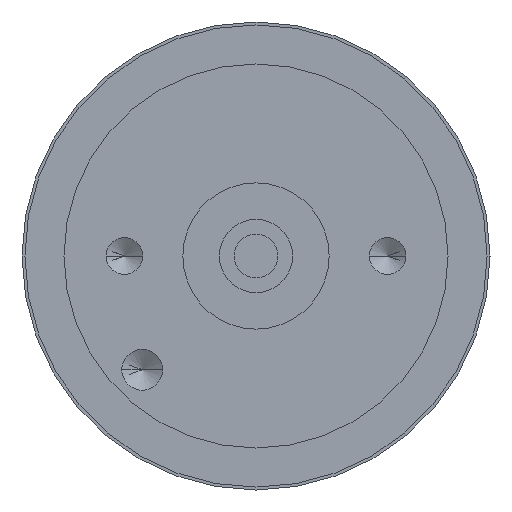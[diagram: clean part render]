
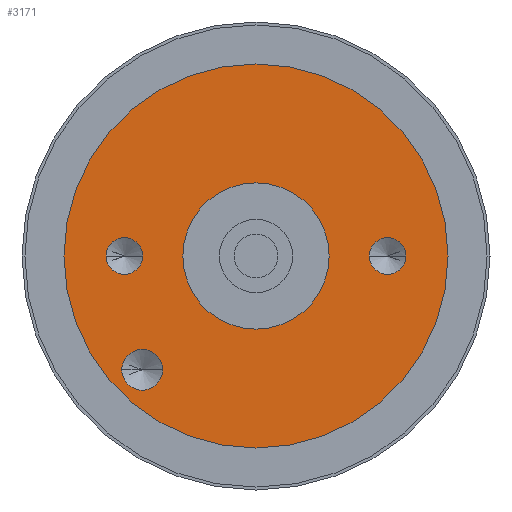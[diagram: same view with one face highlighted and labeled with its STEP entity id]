
A CAD part, left-side view. The second image highlights one B-rep face of the part: STEP entity #3171.
In plain terms, the highlighted planar face has unit normal (-1, 0, 0).
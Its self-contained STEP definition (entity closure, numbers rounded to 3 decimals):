
#71=CARTESIAN_POINT('',(0.,0.,0.));
#72=DIRECTION('',(-1.,0.,0.));
#73=DIRECTION('',(0.,1.,0.));
#74=AXIS2_PLACEMENT_3D('',#71,#72,#73);
#80=CARTESIAN_POINT('',(0.,0.,0.));
#81=DIRECTION('',(1.,0.,0.));
#82=DIRECTION('',(0.,1.,0.));
#83=AXIS2_PLACEMENT_3D('',#80,#81,#82);
#88=CARTESIAN_POINT('',(0.,4.5,0.));
#89=DIRECTION('',(-1.,0.,0.));
#90=DIRECTION('',(0.,1.,0.));
#91=AXIS2_PLACEMENT_3D('',#88,#89,#90);
#96=CARTESIAN_POINT('',(0.,4.5,0.));
#97=DIRECTION('',(-1.,0.,0.));
#98=DIRECTION('',(0.,-1.,0.));
#99=AXIS2_PLACEMENT_3D('',#96,#97,#98);
#104=CARTESIAN_POINT('',(0.,-4.5,0.));
#105=DIRECTION('',(-1.,0.,0.));
#106=DIRECTION('',(0.,-1.,0.));
#107=AXIS2_PLACEMENT_3D('',#104,#105,#106);
#112=CARTESIAN_POINT('',(0.,-4.5,0.));
#113=DIRECTION('',(-1.,0.,0.));
#114=DIRECTION('',(0.,1.,0.));
#115=AXIS2_PLACEMENT_3D('',#112,#113,#114);
#120=CARTESIAN_POINT('',(0.,3.889,-3.889));
#121=DIRECTION('',(-1.,0.,0.));
#122=DIRECTION('',(0.,1.,0.));
#123=AXIS2_PLACEMENT_3D('',#120,#121,#122);
#128=CARTESIAN_POINT('',(0.,3.889,-3.889));
#129=DIRECTION('',(-1.,0.,0.));
#130=DIRECTION('',(0.,-1.,0.));
#131=AXIS2_PLACEMENT_3D('',#128,#129,#130);
#2411=CARTESIAN_POINT('',(0.,0.,0.));
#2412=DIRECTION('',(1.,0.,0.));
#2413=DIRECTION('',(0.,1.,0.));
#2414=AXIS2_PLACEMENT_3D('',#2411,#2412,#2413);
#2433=CARTESIAN_POINT('',(0.,0.,0.));
#2434=DIRECTION('',(-1.,0.,0.));
#2435=DIRECTION('',(0.,1.,0.));
#2436=AXIS2_PLACEMENT_3D('',#2433,#2434,#2435);
#2681=CARTESIAN_POINT('',(0.,2.5,0.));
#2683=VERTEX_POINT('',#2681);
#2685=CARTESIAN_POINT('',(0.,-2.5,0.));
#2687=VERTEX_POINT('',#2685);
#2722=CARTESIAN_POINT('',(0.,6.565,0.));
#2724=VERTEX_POINT('',#2722);
#2726=CARTESIAN_POINT('',(0.,-6.565,0.));
#2728=VERTEX_POINT('',#2726);
#2749=CARTESIAN_POINT('',(0.,4.589,-3.889));
#2750=CARTESIAN_POINT('',(0.,3.189,-3.889));
#2751=VERTEX_POINT('',#2749);
#2752=VERTEX_POINT('',#2750);
#3048=CARTESIAN_POINT('',(0.,5.125,0.));
#3049=CARTESIAN_POINT('',(0.,3.875,0.));
#3050=VERTEX_POINT('',#3048);
#3051=VERTEX_POINT('',#3049);
#3052=CARTESIAN_POINT('',(0.,-5.125,0.));
#3053=CARTESIAN_POINT('',(0.,-3.875,0.));
#3054=VERTEX_POINT('',#3052);
#3055=VERTEX_POINT('',#3053);
#3136=CARTESIAN_POINT('',(0.,0.,0.));
#3137=DIRECTION('',(1.,0.,0.));
#3138=DIRECTION('',(0.,-1.,0.));
#3139=AXIS2_PLACEMENT_3D('',#3136,#3137,#3138);
#3140=PLANE('',#3139);
#3142=ORIENTED_EDGE('',*,*,#3141,.F.);
#3144=ORIENTED_EDGE('',*,*,#3143,.T.);
#3145=EDGE_LOOP('',(#3142,#3144));
#3146=FACE_OUTER_BOUND('',#3145,.F.);
#3148=ORIENTED_EDGE('',*,*,#3147,.F.);
#3150=ORIENTED_EDGE('',*,*,#3149,.T.);
#3151=EDGE_LOOP('',(#3148,#3150));
#3152=FACE_BOUND('',#3151,.F.);
#3154=ORIENTED_EDGE('',*,*,#3153,.T.);
#3156=ORIENTED_EDGE('',*,*,#3155,.T.);
#3157=EDGE_LOOP('',(#3154,#3156));
#3158=FACE_BOUND('',#3157,.F.);
#3160=ORIENTED_EDGE('',*,*,#3159,.T.);
#3162=ORIENTED_EDGE('',*,*,#3161,.T.);
#3163=EDGE_LOOP('',(#3160,#3162));
#3164=FACE_BOUND('',#3163,.F.);
#3166=ORIENTED_EDGE('',*,*,#3165,.T.);
#3168=ORIENTED_EDGE('',*,*,#3167,.T.);
#3169=EDGE_LOOP('',(#3166,#3168));
#3170=FACE_BOUND('',#3169,.F.);
#3171=ADVANCED_FACE('',(#3146,#3152,#3158,#3164,#3170),#3140,.F.);
#75=CIRCLE('',#74,6.565);
#84=CIRCLE('',#83,6.565);
#92=CIRCLE('',#91,0.625);
#100=CIRCLE('',#99,0.625);
#108=CIRCLE('',#107,0.625);
#116=CIRCLE('',#115,0.625);
#124=CIRCLE('',#123,0.7);
#132=CIRCLE('',#131,0.7);
#2415=CIRCLE('',#2414,2.5);
#2437=CIRCLE('',#2436,2.5);
#3141=EDGE_CURVE('',#2724,#2728,#75,.T.);
#3143=EDGE_CURVE('',#2724,#2728,#84,.T.);
#3147=EDGE_CURVE('',#2683,#2687,#2415,.T.);
#3149=EDGE_CURVE('',#2683,#2687,#2437,.T.);
#3153=EDGE_CURVE('',#3050,#3051,#92,.T.);
#3155=EDGE_CURVE('',#3051,#3050,#100,.T.);
#3159=EDGE_CURVE('',#3054,#3055,#108,.T.);
#3161=EDGE_CURVE('',#3055,#3054,#116,.T.);
#3165=EDGE_CURVE('',#2751,#2752,#124,.T.);
#3167=EDGE_CURVE('',#2752,#2751,#132,.T.);
